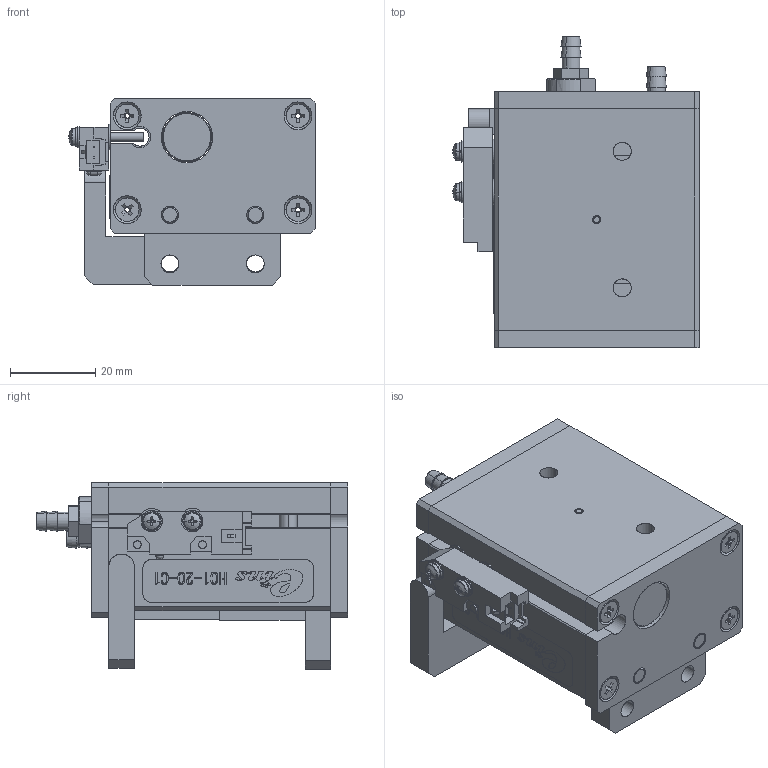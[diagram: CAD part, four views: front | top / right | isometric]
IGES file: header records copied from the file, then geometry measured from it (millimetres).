
Start section: SolidWorks IGES file using analytic representation for surfaces
Global section: file name: E:\2010 カタログ（別冊）\Eins10年4月発売予定新商品データ0311\HC1-5(10)(20)-C1\HC1-20-C1\072706.IGS; native system: SolidWorks 2006 by SolidWorks Corporation; preprocessor: SolidWorks 2006 by SolidWorks Corporation; author: CAD53; date: 100604.142126; units: millimetre
Bounding box: 57.67 x 73 x 43.7 mm (x, y, z)
Surface area: 30695.6 mm2 (no closed solid volume)
Topology: 0 solids, 0 shells, 628 faces, 9532 edges, 9528 vertices
Faces by surface type: bspline 406, revolution 222
